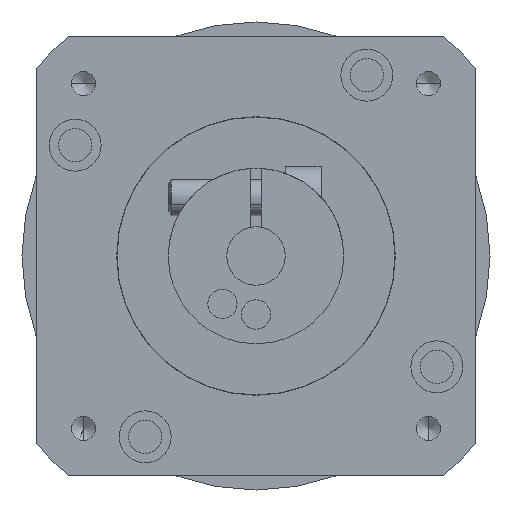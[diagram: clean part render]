
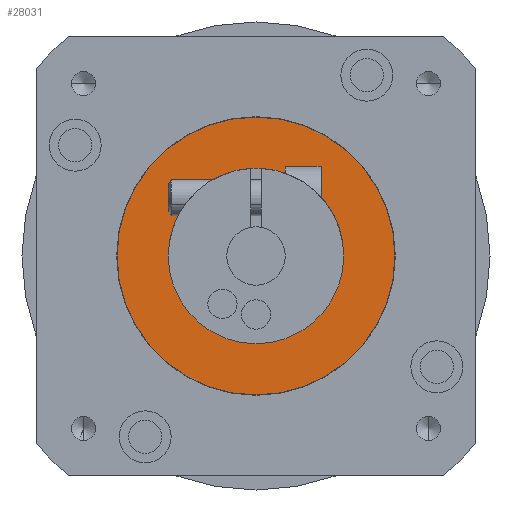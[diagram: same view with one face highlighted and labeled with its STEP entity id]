
A CAD part, front view. The second image highlights one B-rep face of the part: STEP entity #28031.
In plain terms, the highlighted planar face has unit normal (0, -1, 0).
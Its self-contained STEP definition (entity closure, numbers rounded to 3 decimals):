
#731 = CARTESIAN_POINT ( 'NONE',  ( 0., -21., 12. ) ) ;
#895 = CIRCLE ( 'NONE', #6224, 19. ) ;
#985 = VERTEX_POINT ( 'NONE', #731 ) ;
#2653 = VERTEX_POINT ( 'NONE', #32976 ) ;
#3136 = EDGE_CURVE ( 'NONE', #3632, #985, #16373, .T. ) ;
#3276 = VERTEX_POINT ( 'NONE', #18440 ) ;
#3397 = PLANE ( 'NONE',  #9913 ) ;
#3632 = VERTEX_POINT ( 'NONE', #10609 ) ;
#5503 = DIRECTION ( 'NONE',  ( 0., -1., 0. ) ) ;
#6068 = CARTESIAN_POINT ( 'NONE',  ( 19., -21., 0. ) ) ;
#6187 = CIRCLE ( 'NONE', #23966, 19. ) ;
#6224 = AXIS2_PLACEMENT_3D ( 'NONE', #21383, #21343, #21339 ) ;
#6774 = EDGE_CURVE ( 'NONE', #2653, #3276, #895, .T. ) ;
#8539 = AXIS2_PLACEMENT_3D ( 'NONE', #26238, #10639, #28811 ) ;
#8609 = ORIENTED_EDGE ( 'NONE', *, *, #3136, .F. ) ;
#8717 = DIRECTION ( 'NONE',  ( 0., 1., 0. ) ) ;
#9913 = AXIS2_PLACEMENT_3D ( 'NONE', #6068, #8717, #26952 ) ;
#10609 = CARTESIAN_POINT ( 'NONE',  ( 0., -21., -12. ) ) ;
#10639 = DIRECTION ( 'NONE',  ( 0., -1., 0. ) ) ;
#15140 = EDGE_LOOP ( 'NONE', ( #29248, #8609 ) ) ;
#16373 = CIRCLE ( 'NONE', #31526, 12. ) ;
#18440 = CARTESIAN_POINT ( 'NONE',  ( 0., -21., -19. ) ) ;
#19713 = DIRECTION ( 'NONE',  ( 0., 0., 1. ) ) ;
#19732 = ORIENTED_EDGE ( 'NONE', *, *, #6774, .T. ) ;
#19756 = DIRECTION ( 'NONE',  ( 0., -1., 0. ) ) ;
#19783 = CARTESIAN_POINT ( 'NONE',  ( 0., -21., 0. ) ) ;
#20693 = FACE_OUTER_BOUND ( 'NONE', #31333, .T. ) ;
#20826 = FACE_BOUND ( 'NONE', #15140, .T. ) ;
#21212 = CARTESIAN_POINT ( 'NONE',  ( 0., -21., 0. ) ) ;
#21339 = DIRECTION ( 'NONE',  ( 0., 0., 1. ) ) ;
#21343 = DIRECTION ( 'NONE',  ( 0., -1., 0. ) ) ;
#21383 = CARTESIAN_POINT ( 'NONE',  ( 0., -21., 0. ) ) ;
#22994 = ORIENTED_EDGE ( 'NONE', *, *, #31716, .T. ) ;
#23810 = DIRECTION ( 'NONE',  ( 0., 0., 1. ) ) ;
#23966 = AXIS2_PLACEMENT_3D ( 'NONE', #21212, #5503, #23810 ) ;
#25388 = EDGE_CURVE ( 'NONE', #985, #3632, #30357, .T. ) ;
#26238 = CARTESIAN_POINT ( 'NONE',  ( 0., -21., 0. ) ) ;
#26952 = DIRECTION ( 'NONE',  ( 0., 0., 1. ) ) ;
#28031 = ADVANCED_FACE ( 'NONE', ( #20693, #20826 ), #3397, .F. ) ;
#28811 = DIRECTION ( 'NONE',  ( 0., 0., 1. ) ) ;
#29248 = ORIENTED_EDGE ( 'NONE', *, *, #25388, .F. ) ;
#30357 = CIRCLE ( 'NONE', #8539, 12. ) ;
#31333 = EDGE_LOOP ( 'NONE', ( #19732, #22994 ) ) ;
#31526 = AXIS2_PLACEMENT_3D ( 'NONE', #19783, #19756, #19713 ) ;
#31716 = EDGE_CURVE ( 'NONE', #3276, #2653, #6187, .T. ) ;
#32976 = CARTESIAN_POINT ( 'NONE',  ( 0., -21., 19. ) ) ;
